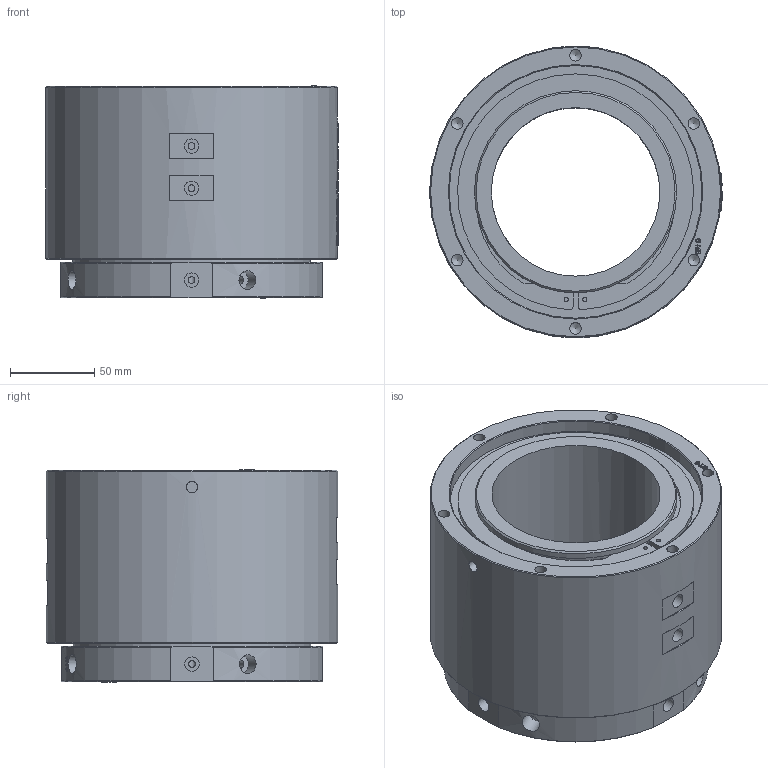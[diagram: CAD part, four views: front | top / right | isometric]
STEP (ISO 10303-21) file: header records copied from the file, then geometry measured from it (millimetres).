
FILE_DESCRIPTION(/* description */ (''),/* implementation_level */ '2;1');
FILE_NAME(/* name */ 'YQ0401-D100-3D模型.stp',/* time_stamp */ '2025-08-06T17:00:32+08:00',/* author */ (''),/* organization */ (''),/* preprocessor_version */ 'ST-DEVELOPER v16.7',/* originating_system */ 'SIEMENS PLM Software NX 12.0',/* authorisation */ '');
FILE_SCHEMA (('AUTOMOTIVE_DESIGN { 1 0 10303 214 3 1 1 1 }'));
Products named in the file (1): Admi3F746D2Ejsor
Bounding box: 173.5 x 173 x 125.9 mm (x, y, z)
Volume: 1799004.8 mm3; surface area: 164486.9 mm2
Topology: 1 solids, 1 shells, 1383 faces, 3764 edges, 2516 vertices
Faces by surface type: extrusion 749, plane 456, cylinder 95, bspline 61, cone 22
Full cylindrical faces by diameter (mm): 2.5 x2, 4 x12, 4.1 x4, 4.2 x4, 5 x4, 6.8 x12, 8.5 x8, 11 x4, 100 x1, 116 x1, 120 x1, 141 x1, 150 x1, 173 x1
Entity records: 54453 total; most frequent: CARTESIAN_POINT 25495, ORIENTED_EDGE 7268, EDGE_CURVE 3634, B_SPLINE_CURVE_WITH_KNOTS 3565, DIRECTION 3037, VERTEX_POINT 2471, EDGE_LOOP 1601, ADVANCED_FACE 1383
